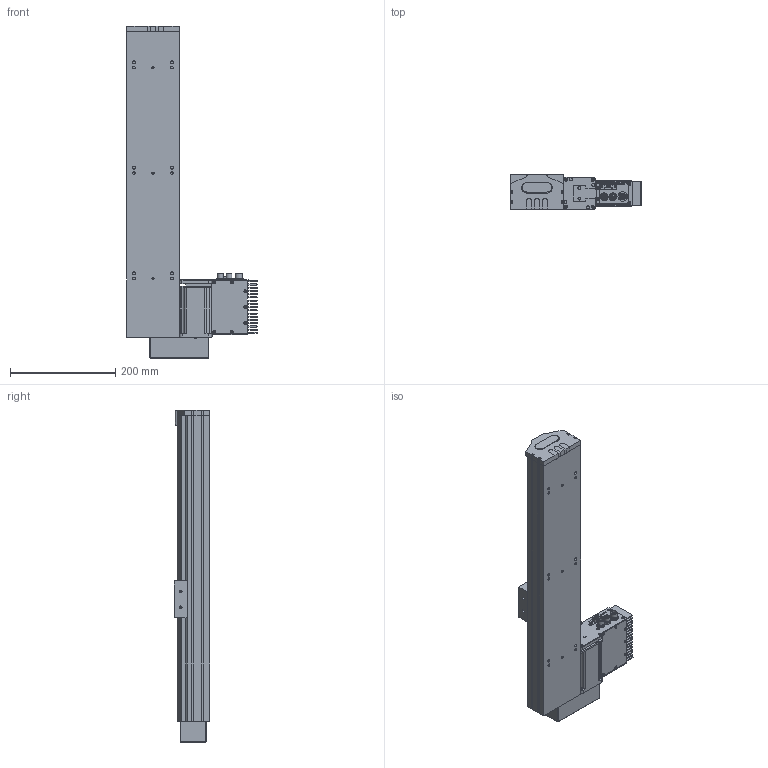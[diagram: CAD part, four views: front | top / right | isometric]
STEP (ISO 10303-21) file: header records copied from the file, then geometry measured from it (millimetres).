
FILE_DESCRIPTION (( 'STEP AP203' ), '1' );
FILE_NAME ('S10 TSN BR S400.STEP', '2012-08-31T13:46:45', ( 'Conseil Régional Haute-Normandie' ), ( 'Conseil Régional Haute-Normandie' ), 'SwSTEP 2.0', 'SolidWorks 2010', '' );
FILE_SCHEMA (( 'CONFIG_CONTROL_DESIGN' ));
Length unit declared in the file: millimetre
Products named in the file (25): S10 TSN BR S400; BU45 Carte d''axe A11_5; Moteur 60BLDC90A_3; Sub D 9cts 90_X2_00B_X0__3; Radiateur profil_X2_00E9_X0_ 100x25_3; Colonnette ronde_3; palette tbn; renvoi LH_Default; Vis TF 3 torkx; Assem1_7; T_X2_00F4_X0_le contre le moteur_5; BU41 Carte Alimentation P05_3; Colonnette_3; Couvercle_3; T_X2_00F4_X0_le fond_3; Connecteur rond D10 3cts_5; Connecteur rond D12 4cts_5; T_X2_00F4_X0_le Arri_X2_00E8_X0_re_5; T_X2_00F4_X0_le lat_X2_00E9_X0_rale_5; Vis TF 3 torkx_1_1; axe587; piece_plastique remplie_Default; embout_modifié; remplir_Default; Pièce2_Default
Assembly tree (55 placements, depth 3):
  S10 TSN BR S400
    Vis TF 3 torkx  x7
    palette tbn
    Assem1_7
      T_X2_00F4_X0_le contre le moteur_5
      BU41 Carte Alimentation P05_3
      Vis TF 3 torkx_1_1  x21
      T_X2_00F4_X0_le Arri_X2_00E8_X0_re_5
      T_X2_00F4_X0_le lat_X2_00E9_X0_rale_5  x2
      Couvercle_3
      Colonnette_3  x2
      BU45 Carte d''axe A11_5
      Connecteur rond D10 3cts_5  x2
      Connecteur rond D12 4cts_5
      Sub D 9cts 90_X2_00B_X0__3
      Colonnette ronde_3
      Radiateur profil_X2_00E9_X0_ 100x25_3
      Moteur 60BLDC90A_3
      T_X2_00F4_X0_le fond_3
    axe587
    renvoi LH_Default
    piece_plastique remplie_Default
      embout_modifié
      Pièce2_Default
      remplir_Default  x3
Bounding box: 248 x 66.75 x 629.5 mm (x, y, z)
Volume: 3743432.9 mm3; surface area: 554664.4 mm2
Topology: 53 solids, 53 shells, 1943 faces, 4950 edges, 3226 vertices
Faces by surface type: plane 921, cylinder 859, cone 156, bspline 4, torus 3
Entity records: 37979 total; most frequent: CARTESIAN_POINT 6419, DIRECTION 6155, ORIENTED_EDGE 5608, EDGE_CURVE 2804, AXIS2_PLACEMENT_3D 2251, VERTEX_POINT 1838, LINE 1653, VECTOR 1653
